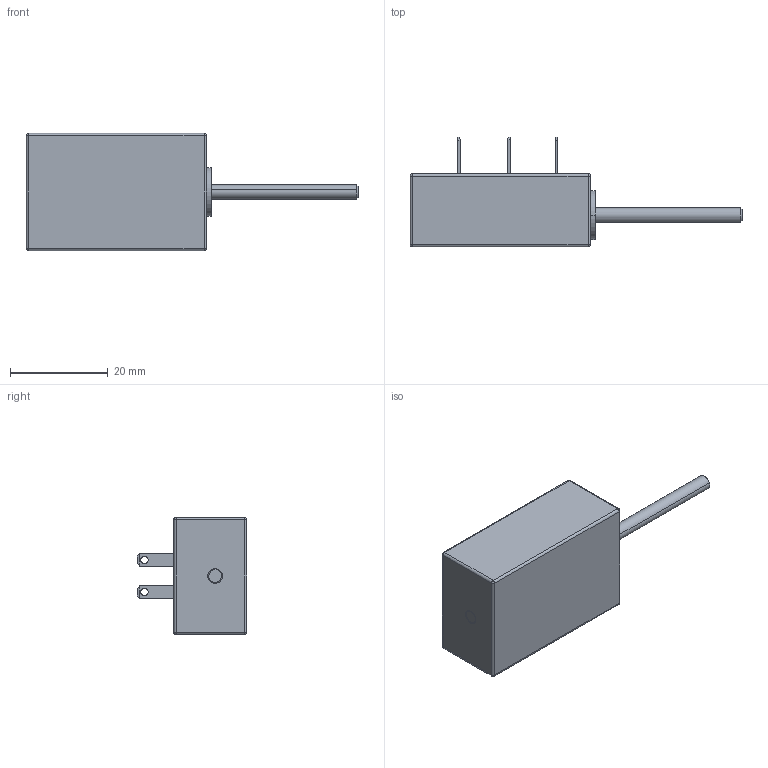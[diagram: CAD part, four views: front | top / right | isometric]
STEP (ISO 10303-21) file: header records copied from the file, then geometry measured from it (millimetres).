
FILE_DESCRIPTION (( 'STEP AP214' ), '1' );
FILE_NAME ('15FLP15A.STEP', '2017-02-03T05:11:44', ( '' ), ( '' ), 'SwSTEP 2.0', 'SolidWorks 2016', '' );
FILE_SCHEMA (( 'AUTOMOTIVE_DESIGN' ));
Products named in the file (2): Part5^15FLP15A; 15FLP15A
Assembly tree (1 placements, depth 2):
  15FLP15A
    Part5^15FLP15A
Bounding box: 68.05 x 22.5 x 24 mm (x, y, z)
Volume: 9510.9 mm3; surface area: 8132.7 mm2
Topology: 2 solids, 6 shells, 3329 faces, 8897 edges, 4773 vertices
Faces by surface type: bspline 2880, plane 292, cylinder 113, cone 30, sphere 8, torus 6
Entity records: 285533 total; most frequent: CARTESIAN_POINT 234032, ORIENTED_EDGE 17770, EDGE_CURVE 8885, VERTEX_POINT 4773, EDGE_LOOP 4096, ADVANCED_FACE 3329, FACE_OUTER_BOUND 3329, DIRECTION 2761
